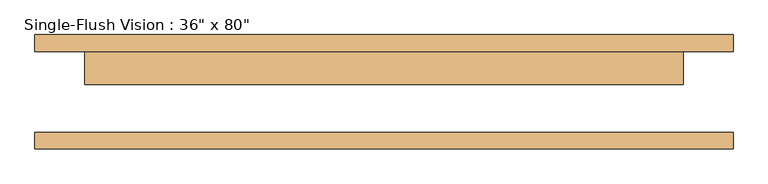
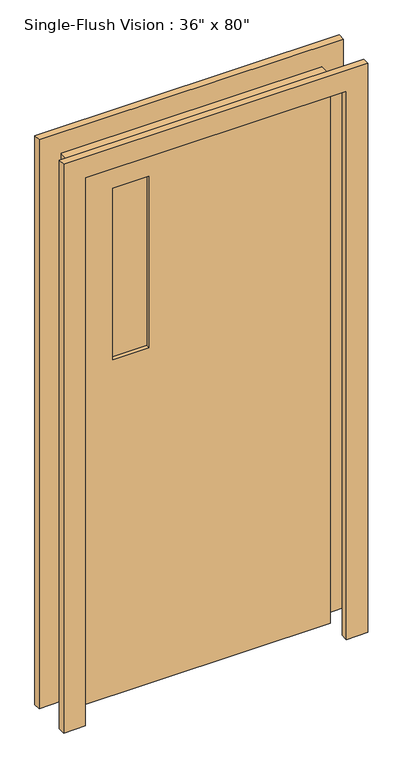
"""IFC4 building model written with IfcOpenShell, lengths in millimetres: door geometry."""

from ifc_helpers import new_model, si_unit, frame, origin, place, context, project, spatial, polyline, outline, extrude, source, transform, mapped, element, save


def door_8f6ecfa2(model_context):
    return source(origin(), model_context, "Body", "SweptSolid", [
        extrude(outline(polyline([(2108.2, -533.4), (0.0, -533.4), (0.0, -457.2), (2032.0, -457.2), (2032.0, 457.2), (0.0, 457.2), (0.0, 533.4), (2108.2, 533.4), (2108.2, -533.4)])), frame((0.0, 61.9125, 0.0), z_axis=(0.0, 1.0, 0.0), x_axis=(0.0, 0.0, 1.0)), (0.0, 0.0, 1.0), 25.4),
        extrude(outline(polyline([(2032.0, 457.2), (0.0, 457.2), (0.0, 533.4), (2108.2, 533.4), (2108.2, -533.4), (0.0, -533.4), (0.0, -457.2), (2032.0, -457.2), (2032.0, 457.2)])), frame((0.0, -87.3125, 0.0), z_axis=(0.0, 1.0, 0.0), x_axis=(0.0, 0.0, 1.0)), (0.0, 0.0, 1.0), 25.4),
        extrude(outline(polyline([(-177.8, 23.8125), (-304.8, 23.8125), (-304.8, 30.1625), (-177.8, 30.1625), (-177.8, 23.8125)])), frame((0.0, 0.0, 1244.6), z_axis=(0.0, 0.0, 1.0), x_axis=(1.0, 0.0, 0.0)), (0.0, 0.0, 1.0), 635.0),
        extrude(outline(polyline([(-177.8, 42.8625), (-304.8, 42.8625), (-304.8, 49.2125), (-177.8, 49.2125), (-177.8, 42.8625)])), frame((0.0, 0.0, 1244.6), z_axis=(0.0, 0.0, 1.0), x_axis=(1.0, 0.0, 0.0)), (0.0, 0.0, 1.0), 635.0),
        extrude(outline(polyline([(2032.0, -457.2), (0.0, -457.2), (0.0, 457.2), (2032.0, 457.2), (2032.0, -457.2)]), holes=[polyline([(1879.6, -304.8), (1879.6, -177.8), (1244.6, -177.8), (1244.6, -304.8), (1879.6, -304.8)])]), frame((0.0, 11.1125, 0.0), z_axis=(0.0, 1.0, 0.0), x_axis=(0.0, 0.0, 1.0)), (0.0, 0.0, 1.0), 50.8),
    ])


if __name__ == "__main__":
    model = new_model("IFC4")
    model_context = context("Model", 3, world=origin())
    ifc_project = project(units=[si_unit("LENGTHUNIT", "METRE", prefix="MILLI")], contexts=[model_context])
    site = spatial("IfcSite", under=ifc_project)
    building = spatial("IfcBuilding", under=site)
    placement = place(None, origin())
    door_shape = door_8f6ecfa2(model_context)
    element("IfcDoor", 1, ObjectType="Single-Flush Vision : 36\" x 80\"", at=placement, inside=building, context=model_context, shape_type="MappedRepresentation", body=[
        mapped(door_shape, transform((0.0, 0.0, 0.0), x_axis=(1.0, 0.0, 0.0), y_axis=(0.0, 1.0, 0.0), z_axis=(0.0, 0.0, 1.0))),
    ])
    save(model, "model.ifc")
